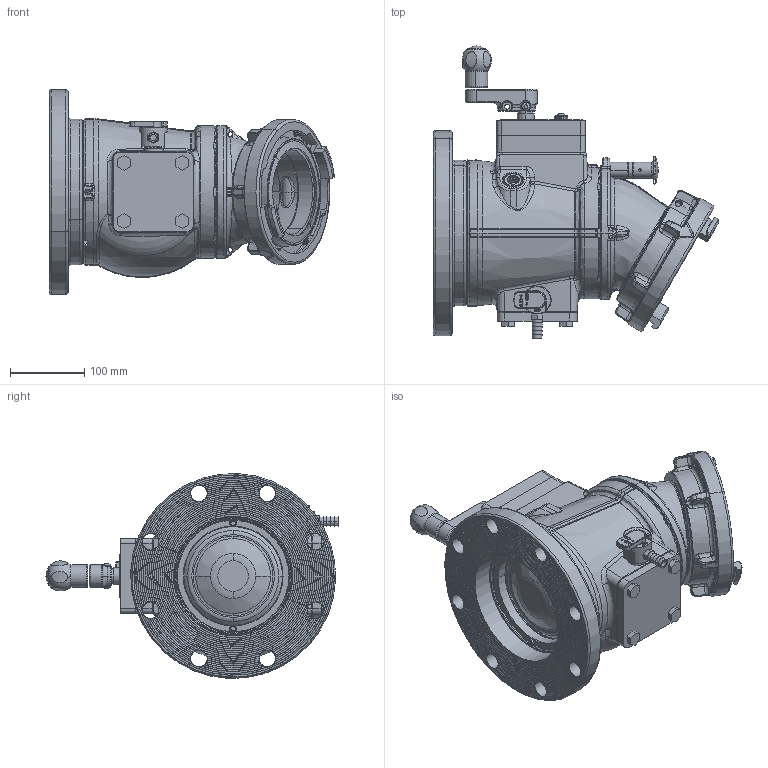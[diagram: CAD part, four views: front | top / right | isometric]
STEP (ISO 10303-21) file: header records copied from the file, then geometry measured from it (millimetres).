
FILE_DESCRIPTION (( 'STEP AP203' ), '1' );
FILE_NAME ('AZ1ST-FX-PS.STEP', '2016-06-15T19:32:30', ( '' ), ( '' ), 'SwSTEP 2.0', 'SolidWorks 2015', '' );
FILE_SCHEMA (( 'CONFIG_CONTROL_DESIGN' ));
Length unit declared in the file: inch
Products named in the file (1): AZ1ST-FX-PS
Bounding box: 385.49 x 394.46 x 276.6 mm (x, y, z)
Surface area: 603975.4 mm2 (no closed solid volume)
Topology: 0 solids, 71 shells, 1795 faces, 6239 edges, 4375 vertices
Faces by surface type: plane 561, bspline 365, cylinder 321, torus 274, cone 232, sphere 42
Entity records: 100344 total; most frequent: CARTESIAN_POINT 51772, ORIENTED_EDGE 10039, DIRECTION 9077, EDGE_CURVE 6225, VERTEX_POINT 4373, AXIS2_PLACEMENT_3D 3519, CIRCLE 2088, VECTOR 2039
